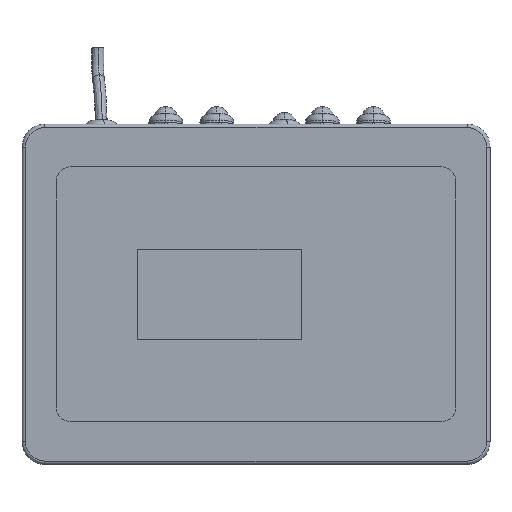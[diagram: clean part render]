
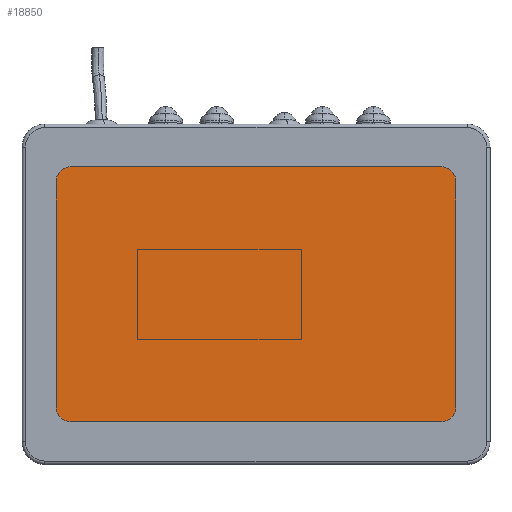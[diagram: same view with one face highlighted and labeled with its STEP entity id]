
A CAD part, front view. The second image highlights one B-rep face of the part: STEP entity #18850.
In plain terms, the highlighted planar face has unit normal (0, -1, 0) as drawn and (0, 0, 1) by its records, which use the part's own axes.
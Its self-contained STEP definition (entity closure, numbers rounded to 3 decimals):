
#18627=CARTESIAN_POINT('',(-108.5,66.,0.));
#18628=DIRECTION('',(0.,0.,-1.));
#18629=DIRECTION('',(-1.,0.,0.));
#18630=AXIS2_PLACEMENT_3D('',#18627,#18628,#18629);
#18632=DIRECTION('',(1.,0.,0.));
#18633=VECTOR('',#18632,217.);
#18634=CARTESIAN_POINT('',(-108.5,75.,0.));
#18635=LINE('',#18634,#18633);
#18636=CARTESIAN_POINT('',(108.5,66.,0.));
#18637=DIRECTION('',(0.,0.,-1.));
#18638=DIRECTION('',(0.,1.,0.));
#18639=AXIS2_PLACEMENT_3D('',#18636,#18637,#18638);
#18641=DIRECTION('',(0.,-1.,0.));
#18642=VECTOR('',#18641,132.);
#18643=CARTESIAN_POINT('',(117.5,66.,0.));
#18644=LINE('',#18643,#18642);
#18645=CARTESIAN_POINT('',(108.5,-66.,0.));
#18646=DIRECTION('',(0.,0.,-1.));
#18647=DIRECTION('',(1.,0.,0.));
#18648=AXIS2_PLACEMENT_3D('',#18645,#18646,#18647);
#18650=DIRECTION('',(-1.,0.,0.));
#18651=VECTOR('',#18650,217.);
#18652=CARTESIAN_POINT('',(108.5,-75.,0.));
#18653=LINE('',#18652,#18651);
#18654=CARTESIAN_POINT('',(-108.5,-66.,0.));
#18655=DIRECTION('',(0.,0.,-1.));
#18656=DIRECTION('',(0.,-1.,0.));
#18657=AXIS2_PLACEMENT_3D('',#18654,#18655,#18656);
#18659=DIRECTION('',(0.,1.,0.));
#18660=VECTOR('',#18659,132.);
#18661=CARTESIAN_POINT('',(-117.5,-66.,0.));
#18662=LINE('',#18661,#18660);
#18779=CARTESIAN_POINT('',(-117.5,66.,0.));
#18780=CARTESIAN_POINT('',(-108.5,75.,0.));
#18781=VERTEX_POINT('',#18779);
#18782=VERTEX_POINT('',#18780);
#18783=CARTESIAN_POINT('',(-117.5,-66.,0.));
#18784=VERTEX_POINT('',#18783);
#18785=CARTESIAN_POINT('',(-108.5,-75.,0.));
#18786=VERTEX_POINT('',#18785);
#18787=CARTESIAN_POINT('',(108.5,-75.,0.));
#18788=VERTEX_POINT('',#18787);
#18789=CARTESIAN_POINT('',(117.5,-66.,0.));
#18790=VERTEX_POINT('',#18789);
#18791=CARTESIAN_POINT('',(117.5,66.,0.));
#18792=VERTEX_POINT('',#18791);
#18793=CARTESIAN_POINT('',(108.5,75.,0.));
#18794=VERTEX_POINT('',#18793);
#18827=CARTESIAN_POINT('',(0.,0.,0.));
#18828=DIRECTION('',(0.,0.,1.));
#18829=DIRECTION('',(1.,0.,0.));
#18830=AXIS2_PLACEMENT_3D('',#18827,#18828,#18829);
#18831=PLANE('',#18830);
#18833=ORIENTED_EDGE('',*,*,#18832,.T.);
#18835=ORIENTED_EDGE('',*,*,#18834,.T.);
#18837=ORIENTED_EDGE('',*,*,#18836,.T.);
#18839=ORIENTED_EDGE('',*,*,#18838,.T.);
#18841=ORIENTED_EDGE('',*,*,#18840,.T.);
#18843=ORIENTED_EDGE('',*,*,#18842,.T.);
#18845=ORIENTED_EDGE('',*,*,#18844,.T.);
#18847=ORIENTED_EDGE('',*,*,#18846,.T.);
#18848=EDGE_LOOP('',(#18833,#18835,#18837,#18839,#18841,#18843,#18845,#18847));
#18849=FACE_OUTER_BOUND('',#18848,.F.);
#18850=ADVANCED_FACE('',(#18849),#18831,.T.);
#18631=CIRCLE('',#18630,9.);
#18640=CIRCLE('',#18639,9.);
#18649=CIRCLE('',#18648,9.);
#18658=CIRCLE('',#18657,9.);
#18832=EDGE_CURVE('',#18781,#18782,#18631,.T.);
#18834=EDGE_CURVE('',#18782,#18794,#18635,.T.);
#18836=EDGE_CURVE('',#18794,#18792,#18640,.T.);
#18838=EDGE_CURVE('',#18792,#18790,#18644,.T.);
#18840=EDGE_CURVE('',#18790,#18788,#18649,.T.);
#18842=EDGE_CURVE('',#18788,#18786,#18653,.T.);
#18844=EDGE_CURVE('',#18786,#18784,#18658,.T.);
#18846=EDGE_CURVE('',#18784,#18781,#18662,.T.);
